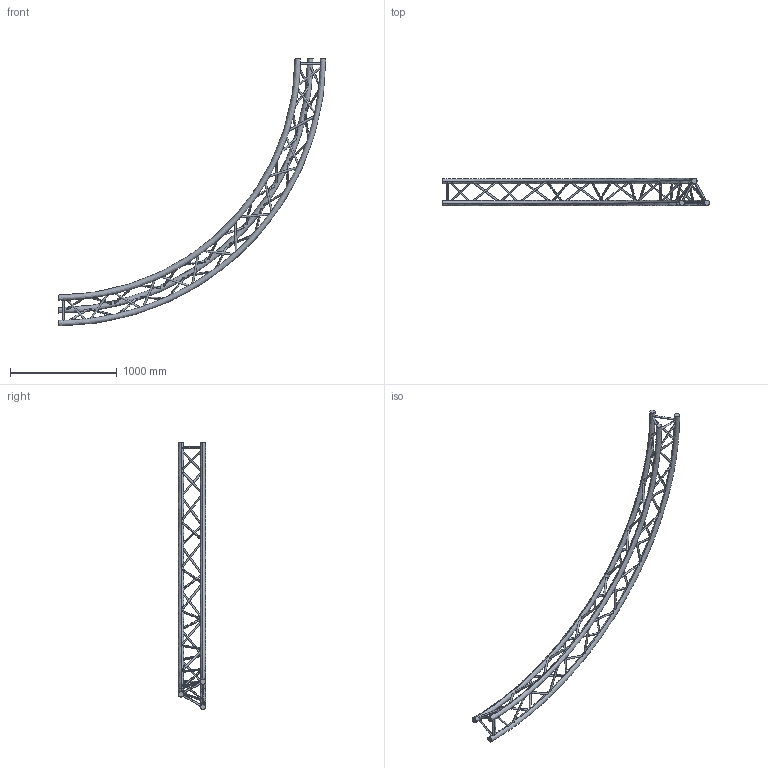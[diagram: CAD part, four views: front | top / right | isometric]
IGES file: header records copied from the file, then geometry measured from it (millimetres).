
Start section: SolidWorks IGES file using analytic representation for surfaces
Global section: file name: K:\BIBLIO\asd_biblio\SX290\Cercles\SXC29500PH\SXC29500PH.IGS; native system: SolidWorks 2009; preprocessor: SolidWorks 2009; author: des3; date: 091021.102214; units: millimetre
Bounding box: 2500 x 255.25 x 2500 mm (x, y, z)
Surface area: 2387038.1 mm2 (no closed solid volume)
Topology: 0 solids, 0 shells, 114 faces, 8271 edges, 8271 vertices
Faces by surface type: revolution 102, bspline 12
